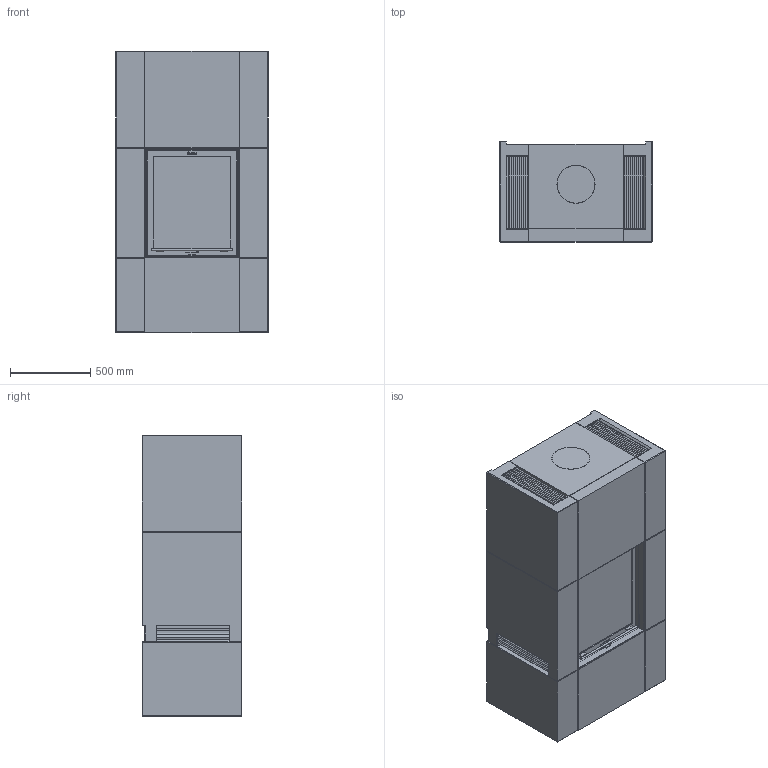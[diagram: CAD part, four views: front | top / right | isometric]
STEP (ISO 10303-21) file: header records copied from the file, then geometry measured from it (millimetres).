
FILE_DESCRIPTION( ( 'Unknown' ), '1' );
FILE_NAME( 'C:/Documents and Settings/hapierrea/Application Data/Unigraphics Solutions/Solid Edge/Insight/insight/Insight/interior models/C21A Assembly.stp', '2010', ( 'Unknown' ), ( 'NIBE AB' ), 'PSStep 11.0', 'Solid Edge', ' ' );
FILE_SCHEMA( ( 'AUTOMOTIVE_DESIGN { 1 0 10303 214 1 1 1 1 }' ) );
Length unit declared in the file: millimetre
Products named in the file (28): Assem1; Grills C21; Insert i20; Firebox insulation i20; Front set C21A; Door i20; Top lid C21A; Door frame i20; Glass i20; Concrete set C21-oa0; Grate i10 i20; Fire i20
Bounding box: 950 x 620 x 1752 mm (x, y, z)
Surface area: 48820123.4 mm2
Topology: 54 solids, 54 shells, 3142 faces, 8172 edges, 5392 vertices
Faces by surface type: plane 2266, extrusion 584, cylinder 268, cone 20, sphere 4
Full cylindrical faces by diameter (mm): 10 x32, 12 x2, 100 x6, 200 x6, 234.938 x2, 236.938 x2
Entity records: 67824 total; most frequent: CARTESIAN_POINT 18173, ORIENTED_EDGE 8114, DIRECTION 6274, EDGE_CURVE 4057, VERTEX_POINT 2694, VECTOR 2626, LINE 2334, AXIS2_PLACEMENT_3D 1824
